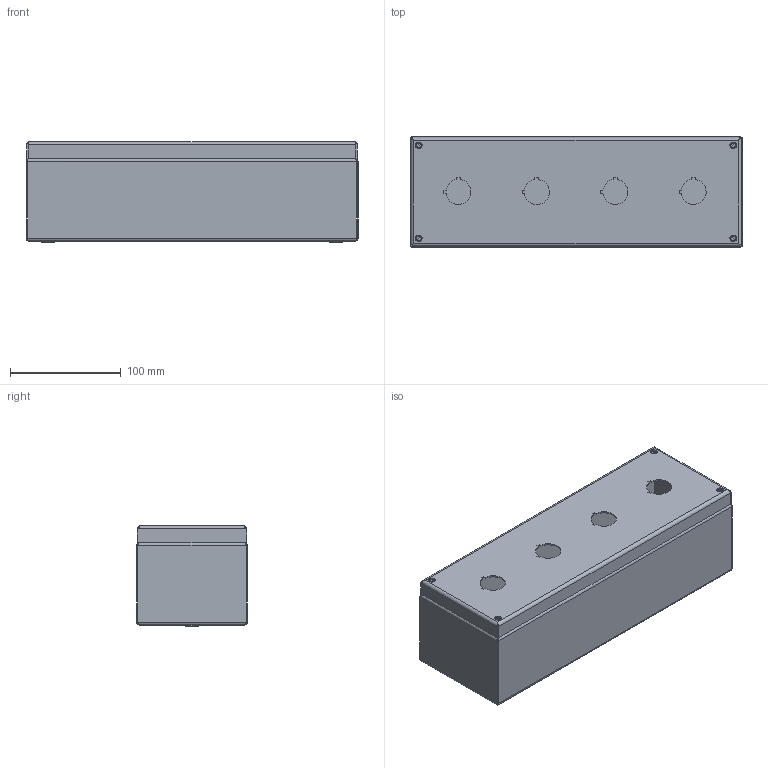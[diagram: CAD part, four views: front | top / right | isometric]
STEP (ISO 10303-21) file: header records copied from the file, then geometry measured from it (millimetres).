
FILE_DESCRIPTION(/* description */ (''),/* implementation_level */ '2;1');
FILE_NAME(/* name */ 'SCA01003009.4',/* time_stamp */ '2025-10-27T09:31:32+01:00',/* author */ ('INOXVENETA Spa'),/* organization */ ('www.inoxveneta.it '),/* preprocessor_version */ 'ST-DEVELOPER v19.4',/* originating_system */ 'Solid Edge',/* authorisation */ 'Unknown');
FILE_SCHEMA (('AUTOMOTIVE_DESIGN {1 0 10303 214 3 1 1}'));
Length unit declared in the file: millimetre
Products named in the file (15): SCA01003009.4; S000X001.00; S0000000.96; AE00511.01_oa_0; AE00511.01_oa_1; AE00511.01_oa_2; AE00511.01_oa_3; S0000000.78; S0000000.02; AE00891.05; C0000000.08; S000X001.01; S0000000.97; AE00407.01; S0000000.04
Assembly tree (17 placements, depth 3):
  SCA01003009.4
    S000X001.00
      S0000000.96
      AE00511.01_oa_0
      AE00511.01_oa_1
      AE00511.01_oa_2
      AE00511.01_oa_3
    S0000000.78  x2
    S0000000.02  x2
    AE00891.05  x2
    C0000000.08
    S000X001.01
      S0000000.97
      AE00407.01
    S0000000.04
Bounding box: 300 x 100 x 91 mm (x, y, z)
Volume: 203135.1 mm3; surface area: 317153 mm2
Topology: 15 solids, 15 shells, 542 faces, 1305 edges, 803 vertices
Faces by surface type: plane 336, cylinder 120, cone 49, bspline 24, torus 13
Full cylindrical faces by diameter (mm): 4.2 x6, 5 x3, 6 x4, 6.5 x1, 6.647 x2, 7 x4, 8 x2, 8.25 x2, 11 x2, 12 x2
Entity records: 16429 total; most frequent: CARTESIAN_POINT 3031, DIRECTION 2400, ORIENTED_EDGE 2352, EDGE_CURVE 1176, AXIS2_PLACEMENT_3D 809, LINE 782, VECTOR 782, VERTEX_POINT 744
